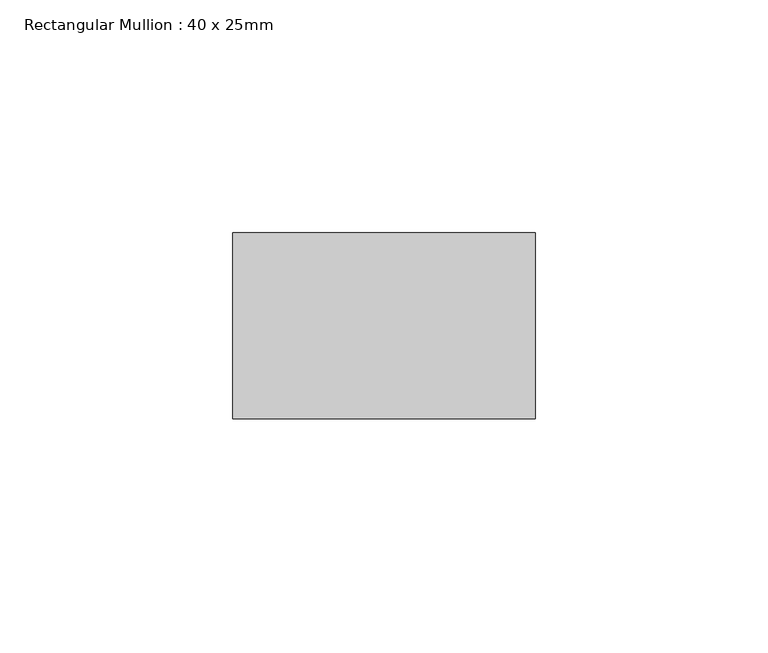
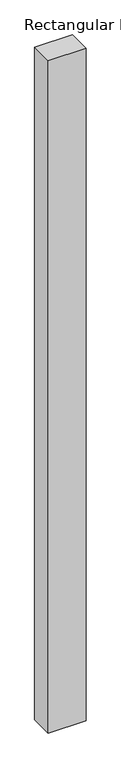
"""IFC4 building model written with IfcOpenShell, lengths in millimetres: member geometry, Rectangular Mullion : 40 x 25mm."""

import ifcopenshell
import ifcopenshell.guid

model = None  # the IFC model being written
_history = None  # IfcOwnerHistory: only IFC2X3 demands one
_inside = {}  # id of a spatial element -> (the spatial element, [elements in it])
_under = {}  # id of a project, library or spatial element -> (it, [spatial elements below it])
_declared = {}  # id of a project -> (the project, [libraries it declares])
_typed = {}  # id of a type object -> (the type object, [elements of that type])
_made_of = {}  # id of a material, layer set ... -> (it, [elements and type objects made of it])


def new_model(schema):
    """Start an empty IFC model of exactly this schema.

    Asked for "IFC4X3", IfcOpenShell would pick the latest addendum, in which some entities
    have other attributes; the version numbers below select the first issue.
    IFC2X3 requires an IfcOwnerHistory on every rooted entity: one is made here for all.
    """
    global model, _history
    if schema == "IFC4X3":
        model = ifcopenshell.file(schema_version=(4, 3, 0, 0))
    else:
        model = ifcopenshell.file(schema=schema)
    _inside.clear()
    _under.clear()
    _declared.clear()
    _typed.clear()
    _made_of.clear()
    _history = None
    if model.schema == "IFC2X3":
        org = make("IfcOrganization", Name="unknown")
        user = make(
            "IfcPersonAndOrganization",
            ThePerson=make("IfcPerson", FamilyName="unknown"),
            TheOrganization=org,
        )
        app = make(
            "IfcApplication",
            ApplicationDeveloper=org,
            Version="unknown",
            ApplicationFullName="unknown",
            ApplicationIdentifier="unknown",
        )
        _history = make(
            "IfcOwnerHistory",
            OwningUser=user,
            OwningApplication=app,
            ChangeAction="ADDED",
            CreationDate=0,
        )
    return model


def make(cls, **values):
    """One entity of the class cls with the attributes given. An attribute that is None is left unset."""
    return model.create_entity(
        cls, **{name: value for name, value in values.items() if value is not None}
    )


def rooted(cls, **values):
    """An entity with a GlobalId (a new one), such as an element, a storey or a relation."""
    return make(cls, GlobalId=ifcopenshell.guid.new(), OwnerHistory=_history, **values)


def si_unit(unit_type, name, prefix=None):
    """IfcSIUnit, for example si_unit("LENGTHUNIT", "METRE", prefix="MILLI")."""
    return make("IfcSIUnit", UnitType=unit_type, Prefix=prefix, Name=name)


def assignment(units):
    """IfcUnitAssignment: the units of a project."""
    return None if units is None else make("IfcUnitAssignment", Units=units)


def point(xyz):
    """IfcCartesianPoint."""
    return None if xyz is None else make("IfcCartesianPoint", Coordinates=xyz)


def direction(xyz):
    """IfcDirection."""
    return None if xyz is None else make("IfcDirection", DirectionRatios=xyz)


def frame(location, z_axis=None, x_axis=None):
    """IfcAxis2Placement3D, a coordinate frame: its origin and axes. An axis left out is left unset."""
    return make(
        "IfcAxis2Placement3D",
        Location=point(location),
        Axis=direction(z_axis),
        RefDirection=direction(x_axis),
    )


def origin():
    """The frame at (0, 0, 0) with its axes left unset."""
    return frame((0.0, 0.0, 0.0))


def place(relative_to, where):
    """IfcLocalPlacement: puts the frame where relative to a parent placement (None: the world)."""
    return make(
        "IfcLocalPlacement", PlacementRelTo=relative_to, RelativePlacement=where
    )


def context(
    kind, dimensions, precision=None, world=None, true_north=None, identifier=None
):
    """IfcGeometricRepresentationContext, for example the 3D "Model" context."""
    return make(
        "IfcGeometricRepresentationContext",
        ContextIdentifier=identifier,
        ContextType=kind,
        CoordinateSpaceDimension=dimensions,
        Precision=precision,
        WorldCoordinateSystem=world,
        TrueNorth=true_north,
    )


def project(units=None, contexts=None):
    """IfcProject with its units and contexts."""
    return rooted(
        "IfcProject",
        Name="project",
        RepresentationContexts=contexts,
        UnitsInContext=assignment(units),
    )


def spatial(cls, under=None, at=None, **own):
    """A site, building, storey or space (cls), placed at a placement, below another one or the project."""
    s = rooted(cls, ObjectPlacement=at, **own)
    if under is not None:
        _under.setdefault(under.id(), (under, []))[1].append(s)
    return s


def polyline(points):
    """IfcPolyline through the points."""
    return make("IfcPolyline", Points=[point(p) for p in points])


def outline(outer, holes=None, kind="AREA"):
    """IfcArbitraryClosedProfileDef: a profile drawn as a closed curve; with holes, ...WithVoids."""
    if holes is None:
        return make("IfcArbitraryClosedProfileDef", ProfileType=kind, OuterCurve=outer)
    return make(
        "IfcArbitraryProfileDefWithVoids",
        ProfileType=kind,
        OuterCurve=outer,
        InnerCurves=holes,
    )


def extrude(swept, where, along, depth):
    """IfcExtrudedAreaSolid: the profile swept, set in the frame where, extruded along a direction by depth."""
    return make(
        "IfcExtrudedAreaSolid",
        SweptArea=swept,
        Position=where,
        ExtrudedDirection=direction(along),
        Depth=depth,
    )


def shape(context_of_items, identifier, shape_type, items):
    """IfcShapeRepresentation: the items that make up one representation, for example the "Body"."""
    return make(
        "IfcShapeRepresentation",
        ContextOfItems=context_of_items,
        RepresentationIdentifier=identifier,
        RepresentationType=shape_type,
        Items=items,
    )


def source(mapping_origin, context_of_items, identifier, shape_type, items):
    """IfcRepresentationMap: a shape defined once, which mapped items show again and again."""
    return make(
        "IfcRepresentationMap",
        MappingOrigin=mapping_origin,
        MappedRepresentation=shape(context_of_items, identifier, shape_type, items),
    )


def transform(
    local_origin,
    x_axis=None,
    y_axis=None,
    z_axis=None,
    scale=None,
    scale2=None,
    scale3=None,
    uniform=True,
):
    """IfcCartesianTransformationOperator3D, or its non-uniform kind. x_axis, y_axis, z_axis: its Axis1, 2, 3."""
    if uniform:
        return make(
            "IfcCartesianTransformationOperator3D",
            Axis1=direction(x_axis),
            Axis2=direction(y_axis),
            LocalOrigin=point(local_origin),
            Scale=scale,
            Axis3=direction(z_axis),
        )
    return make(
        "IfcCartesianTransformationOperator3DnonUniform",
        Axis1=direction(x_axis),
        Axis2=direction(y_axis),
        LocalOrigin=point(local_origin),
        Scale=scale,
        Axis3=direction(z_axis),
        Scale2=scale2,
        Scale3=scale3,
    )


def mapped(mapping_source, mapping_target):
    """IfcMappedItem: shows the shape of a source again, moved by a transform."""
    return make(
        "IfcMappedItem", MappingSource=mapping_source, MappingTarget=mapping_target
    )


def made_of(thing, what):
    """Note that an element or type object is made of a material, layer set ...; save() writes the relation."""
    if what is not None:
        _made_of.setdefault(what.id(), (what, []))[1].append(thing)
    return thing


def element(
    cls,
    number,
    at=None,
    inside=None,
    cuts=None,
    type_object=None,
    material=None,
    context=None,
    identifier="Body",
    shape_type=None,
    held_by="IfcProductDefinitionShape",
    body=None,
    shapes=None,
    **own,
):
    """One element of the class cls, such as IfcWall. Its Tag is "e" and its number.

    at: its placement. inside: the storey or other place that contains it. cuts: it is an
    opening in that element (IfcRelVoidsElement). A single representation is given by context,
    identifier, shape_type and body (its items); several are given by shapes. held_by: the class
    of the entity that holds the representations. save() writes the other relations.
    """
    e = rooted(cls, Tag="e%d" % number, ObjectPlacement=at, **own)
    if body is not None:
        shapes = [shape(context, identifier, shape_type, body)]
    if shapes is not None:
        e.Representation = make(held_by, Representations=shapes)
    if inside is not None:
        _inside.setdefault(inside.id(), (inside, []))[1].append(e)
    if cuts is not None:
        rooted(
            "IfcRelVoidsElement", RelatingBuildingElement=cuts, RelatedOpeningElement=e
        )
    if type_object is not None:
        _typed.setdefault(type_object.id(), (type_object, []))[1].append(e)
    return made_of(e, material)


def aggregate(whole, parts):
    """IfcRelAggregates: a whole, such as a stair, and the parts it consists of."""
    return rooted("IfcRelAggregates", RelatingObject=whole, RelatedObjects=parts)


def save(model, path):
    """Write the relations noted so far, then the file.

    IfcRelAggregates (storeys below a building ...), IfcRelContainedInSpatialStructure (elements
    in a storey), IfcRelDefinesByType, IfcRelAssociatesMaterial and IfcRelDeclares: one each for
    every whole, place, type object, material and project.
    """
    for whole, parts in _under.values():
        aggregate(whole, parts)
    for where, things in _inside.values():
        rooted(
            "IfcRelContainedInSpatialStructure",
            RelatedElements=things,
            RelatingStructure=where,
        )
    for kind, things in _typed.values():
        rooted("IfcRelDefinesByType", RelatedObjects=things, RelatingType=kind)
    for what, things in _made_of.values():
        rooted("IfcRelAssociatesMaterial", RelatedObjects=things, RelatingMaterial=what)
    for by, libraries in _declared.values():
        rooted("IfcRelDeclares", RelatingContext=by, RelatedDefinitions=libraries)
    model.write(path)


def rectangular_mullion_40_x_25mm_11f4efd1(model_context):
    return source(origin(), model_context, "Body", "SweptSolid", [
        extrude(outline(polyline([(40.0, -20.0), (40.0, -60.0), (-25.0, -60.0), (-25.0, -20.0), (40.0, -20.0)])), frame((0.0, 0.0, -1215.0), z_axis=(0.0, 0.0, 1.0), x_axis=(1.0, 0.0, 0.0)), (0.0, 0.0, 1.0), 1215.0),
    ])


if __name__ == "__main__":
    model = new_model("IFC4")
    model_context = context("Model", 3, world=origin())
    ifc_project = project(units=[si_unit("LENGTHUNIT", "METRE", prefix="MILLI")], contexts=[model_context])
    site = spatial("IfcSite", under=ifc_project)
    building = spatial("IfcBuilding", under=site)
    placement = place(None, origin())
    rectangular_mullion_40_x_25mm_shape = rectangular_mullion_40_x_25mm_11f4efd1(model_context)
    element("IfcMember", 1, ObjectType="Rectangular Mullion : 40 x 25mm", at=placement, inside=building, context=model_context, shape_type="MappedRepresentation", body=[
        mapped(rectangular_mullion_40_x_25mm_shape, transform((0.0, 0.0, 0.0), x_axis=(1.0, 0.0, 0.0), y_axis=(0.0, 1.0, 0.0), z_axis=(0.0, 0.0, 1.0))),
    ])
    save(model, "model.ifc")
